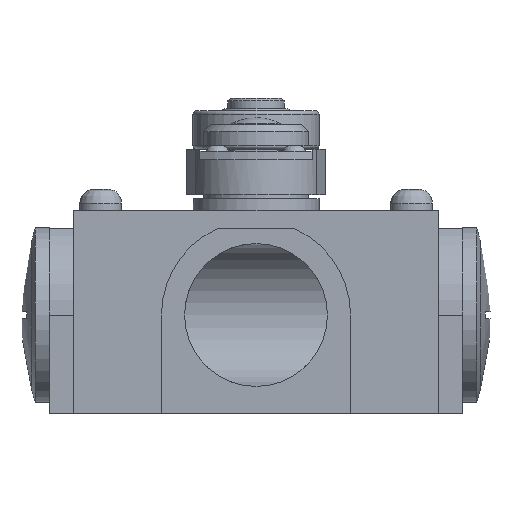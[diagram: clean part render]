
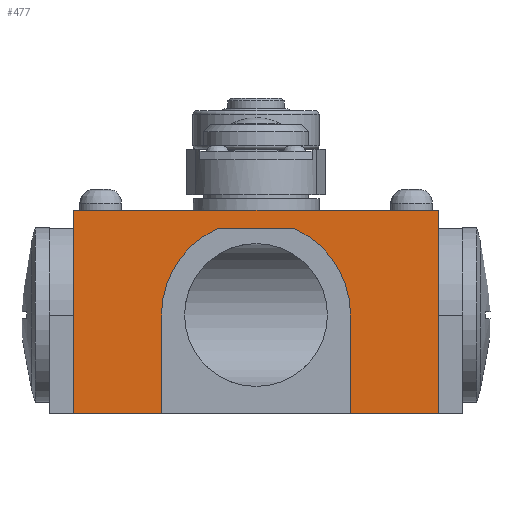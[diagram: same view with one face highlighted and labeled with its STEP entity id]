
A CAD part, front view. The second image highlights one B-rep face of the part: STEP entity #477.
In plain terms, the highlighted planar face has unit normal (0, -1, 0).
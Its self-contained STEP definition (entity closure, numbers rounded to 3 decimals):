
#276=CARTESIAN_POINT('',(5.5,0.0,26.));
#277=VERTEX_POINT('',#276);
#278=CARTESIAN_POINT('',(-5.5,0.0,26.));
#279=VERTEX_POINT('',#278);
#280=CARTESIAN_POINT('',(5.5,0.0,26.));
#281=DIRECTION('',(-1.0,0.0,0.0));
#282=VECTOR('',#281,11.);
#283=LINE('',#280,#282);
#284=EDGE_CURVE('',#277,#279,#283,.T.);
#326=CARTESIAN_POINT('',(13.5,0.0,13.671));
#327=VERTEX_POINT('',#326);
#334=CARTESIAN_POINT('',(0.0,0.0,13.671));
#335=DIRECTION('',(0.0,-1.0,0.0));
#336=DIRECTION('',(-1.0,0.0,0.0));
#337=AXIS2_PLACEMENT_3D('',#334,#335,#336);
#338=CIRCLE('',#337,13.5);
#339=EDGE_CURVE('',#327,#277,#338,.T.);
#394=CARTESIAN_POINT('',(-13.5,0.0,13.671));
#395=VERTEX_POINT('',#394);
#396=CARTESIAN_POINT('',(0.0,0.0,13.671));
#397=DIRECTION('',(0.0,-1.0,0.0));
#398=DIRECTION('',(-1.0,0.0,0.0));
#399=AXIS2_PLACEMENT_3D('',#396,#397,#398);
#400=CIRCLE('',#399,13.5);
#401=EDGE_CURVE('',#279,#395,#400,.T.);
#413=CARTESIAN_POINT('',(26.,0.0,0.0));
#414=DIRECTION('',(0.0,-1.0,0.0));
#415=DIRECTION('',(0.0,0.0,-1.0));
#416=AXIS2_PLACEMENT_3D('',#413,#414,#415);
#417=PLANE('',#416);
#418=ORIENTED_EDGE('',*,*,#339,.F.);
#419=CARTESIAN_POINT('',(13.5,0.0,-0.35));
#420=VERTEX_POINT('',#419);
#421=CARTESIAN_POINT('',(13.5,0.0,13.671));
#422=DIRECTION('',(0.0,0.0,-1.0));
#423=VECTOR('',#422,14.021);
#424=LINE('',#421,#423);
#425=EDGE_CURVE('',#327,#420,#424,.T.);
#426=ORIENTED_EDGE('',*,*,#425,.T.);
#427=CARTESIAN_POINT('',(26.,0.0,-0.35));
#428=VERTEX_POINT('',#427);
#429=CARTESIAN_POINT('',(13.5,0.0,-0.35));
#430=DIRECTION('',(1.0,0.0,0.0));
#431=VECTOR('',#430,12.5);
#432=LINE('',#429,#431);
#433=EDGE_CURVE('',#420,#428,#432,.T.);
#434=ORIENTED_EDGE('',*,*,#433,.T.);
#435=CARTESIAN_POINT('',(26.0,0.0,28.65));
#436=VERTEX_POINT('',#435);
#437=CARTESIAN_POINT('',(26.,0.0,-0.35));
#438=DIRECTION('',(0.0,0.0,1.0));
#439=VECTOR('',#438,29.);
#440=LINE('',#437,#439);
#441=EDGE_CURVE('',#428,#436,#440,.T.);
#442=ORIENTED_EDGE('',*,*,#441,.T.);
#443=CARTESIAN_POINT('',(-26.,0.0,28.65));
#444=VERTEX_POINT('',#443);
#445=CARTESIAN_POINT('',(26.0,0.0,28.65));
#446=DIRECTION('',(-1.0,0.0,0.0));
#447=VECTOR('',#446,52.);
#448=LINE('',#445,#447);
#449=EDGE_CURVE('',#436,#444,#448,.T.);
#450=ORIENTED_EDGE('',*,*,#449,.T.);
#451=CARTESIAN_POINT('',(-26.,0.0,-0.35));
#452=VERTEX_POINT('',#451);
#453=CARTESIAN_POINT('',(-26.,0.0,-0.35));
#454=DIRECTION('',(0.0,0.0,1.0));
#455=VECTOR('',#454,29.);
#456=LINE('',#453,#455);
#457=EDGE_CURVE('',#452,#444,#456,.T.);
#458=ORIENTED_EDGE('',*,*,#457,.F.);
#459=CARTESIAN_POINT('',(-13.5,0.0,-0.35));
#460=VERTEX_POINT('',#459);
#461=CARTESIAN_POINT('',(-26.,0.0,-0.35));
#462=DIRECTION('',(1.0,0.0,0.0));
#463=VECTOR('',#462,12.5);
#464=LINE('',#461,#463);
#465=EDGE_CURVE('',#452,#460,#464,.T.);
#466=ORIENTED_EDGE('',*,*,#465,.T.);
#467=CARTESIAN_POINT('',(-13.5,0.0,-0.35));
#468=DIRECTION('',(0.0,0.0,1.0));
#469=VECTOR('',#468,14.021);
#470=LINE('',#467,#469);
#471=EDGE_CURVE('',#460,#395,#470,.T.);
#472=ORIENTED_EDGE('',*,*,#471,.T.);
#473=ORIENTED_EDGE('',*,*,#401,.F.);
#474=ORIENTED_EDGE('',*,*,#284,.F.);
#475=EDGE_LOOP('',(#418,#426,#434,#442,#450,#458,#466,#472,#473,#474));
#476=FACE_OUTER_BOUND('',#475,.T.);
#477=ADVANCED_FACE('',(#476),#417,.T.);
